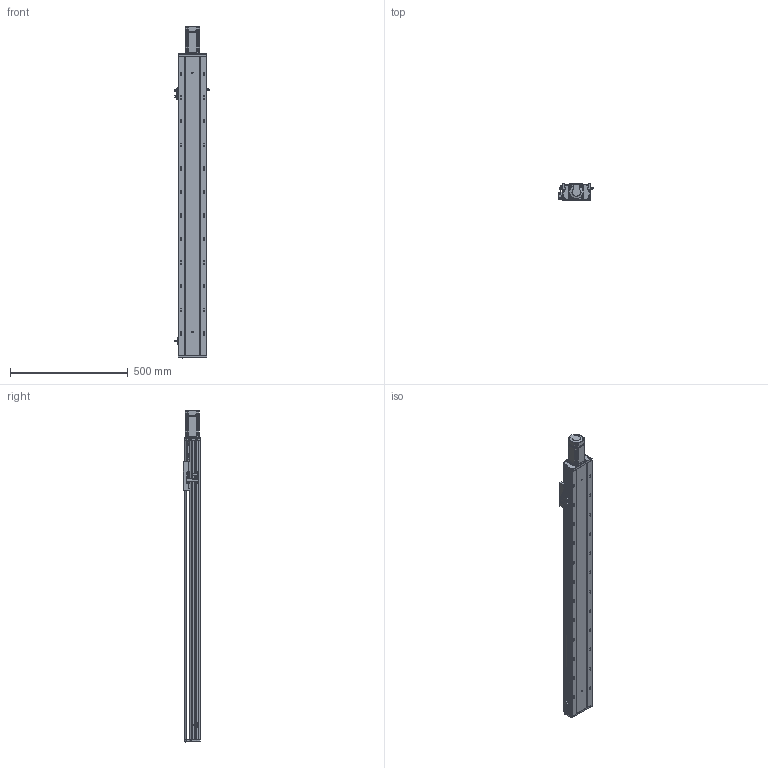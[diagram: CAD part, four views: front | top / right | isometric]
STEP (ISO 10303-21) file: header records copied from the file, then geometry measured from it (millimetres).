
FILE_DESCRIPTION (( 'STEP AP203' ), '1' );
FILE_NAME ('RYK120-L1610-S1000-M40-C3-MK.STEP', '2026-03-09T07:55:49', ( '' ), ( '' ), 'SwSTEP 2.0', 'SolidWorks 2016', '' );
FILE_SCHEMA (( 'CONFIG_CONTROL_DESIGN' ));
Length unit declared in the file: millimetre
Products named in the file (17): RYK170-薊粣ん芵隴裔啣; 滅袉蝶18-24; 15; RYK120-300-MK-菁釱-啞_1000; RY120綴裔啣; 滅袉蝶18-10; RYK120-L1610-S1000-M40-C3-MK; 侂狟400W侜督萇儂; CB╱T 3762-1996[锥形润滑油嘴1-ZM10×1]_1-ZM10×1; 44-49-12-14; RY120电机端支撑座-压铸加工-M5; RY120QGB-1.8; RYK120-300-MK-奻裔啣-啞_1000; 覜茼ん672; RY120-16螺母油路-集中注油组合; RY120外置感应片(140共用）; 2.10.1.C521-V1.0RY120臏賑輸16蹟譫-啞-JZZY-NRL-L1899
Assembly tree (21 placements, depth 3):
  RYK120-L1610-S1000-M40-C3-MK
    RYK120-300-MK-菁釱-啞_1000
    RYK120-300-MK-奻裔啣-啞_1000
    RY120綴裔啣
    滅袉蝶18-24  x2
    滅袉蝶18-10  x2
    覜茼ん672  x3
    RY120外置感应片(140共用）
    RY120QGB-1.8
    RY120-16螺母油路-集中注油组合
      2.10.1.C521-V1.0RY120臏賑輸16蹟譫-啞-JZZY-NRL-L1899
      CB╱T 3762-1996[锥形润滑油嘴1-ZM10×1]_1-ZM10×1  x2
    RY120电机端支撑座-压铸加工-M5
    RYK170-薊粣ん芵隴裔啣
    44-49-12-14
    侂狟400W侜督萇儂
      15
Bounding box: 145.7 x 73 x 1408.5 mm (x, y, z)
Volume: 3692852.6 mm3; surface area: 1315620.5 mm2
Topology: 23 solids, 23 shells, 2836 faces, 7942 edges, 5085 vertices
Faces by surface type: plane 1251, cylinder 1169, cone 289, bspline 127
Entity records: 96608 total; most frequent: CARTESIAN_POINT 28918, ORIENTED_EDGE 14360, DIRECTION 12955, EDGE_CURVE 7180, VERTEX_POINT 4697, AXIS2_PLACEMENT_3D 4486, VECTOR 3983, LINE 3983
